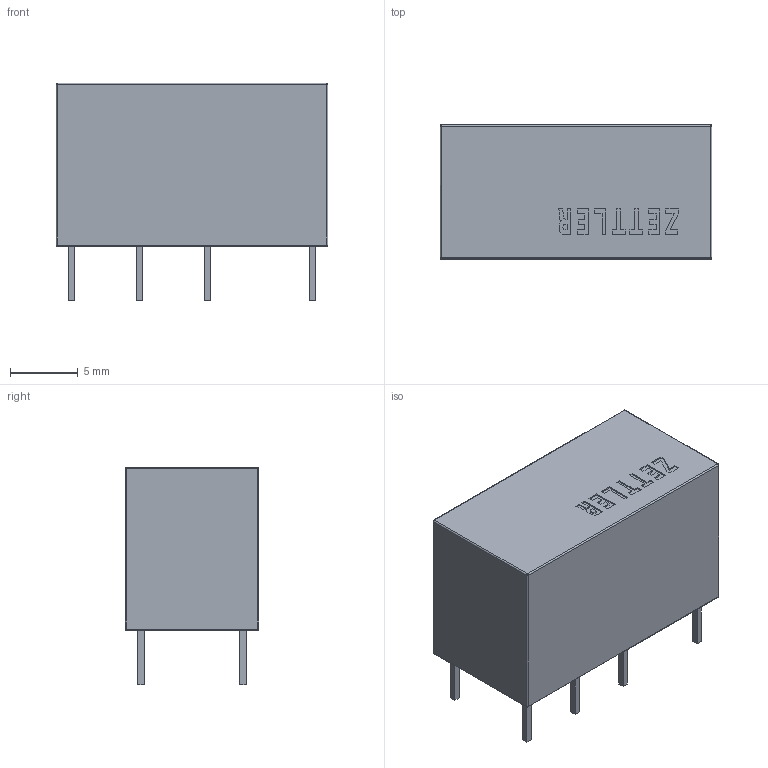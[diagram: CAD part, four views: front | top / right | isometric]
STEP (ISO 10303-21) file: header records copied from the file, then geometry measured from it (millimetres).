
FILE_DESCRIPTION(('CATIA V5 STEP Exchange'),'2;1');
FILE_NAME('X:\XDrive\---CAD---\--- Elektronik ---\Relais_12V_Zettler_AZ832-2C-12DEA.stp','2023-02-20T17:15:35+00:00',('none'),('none'),'CATIA Version 5 Release 19 SP 2 (IN-10)','CATIA V5 STEP AP203','none');
FILE_SCHEMA(('CONFIG_CONTROL_DESIGN'));
Length unit declared in the file: millimetre
Products named in the file (1): Relais_12V_Zettler_AZ832-2C-12DEA
Bounding box: 20 x 9.85 x 16 mm (x, y, z)
Volume: 2369.5 mm3; surface area: 1165.5 mm2
Topology: 1 solids, 1 shells, 168 faces, 430 edges, 276 vertices
Faces by surface type: plane 148, cylinder 12, sphere 8
Entity records: 4720 total; most frequent: ORIENTED_EDGE 852, CARTESIAN_POINT 845, DIRECTION 655, EDGE_CURVE 426, VECTOR 402, LINE 402, VERTEX_POINT 276, EDGE_LOOP 184
